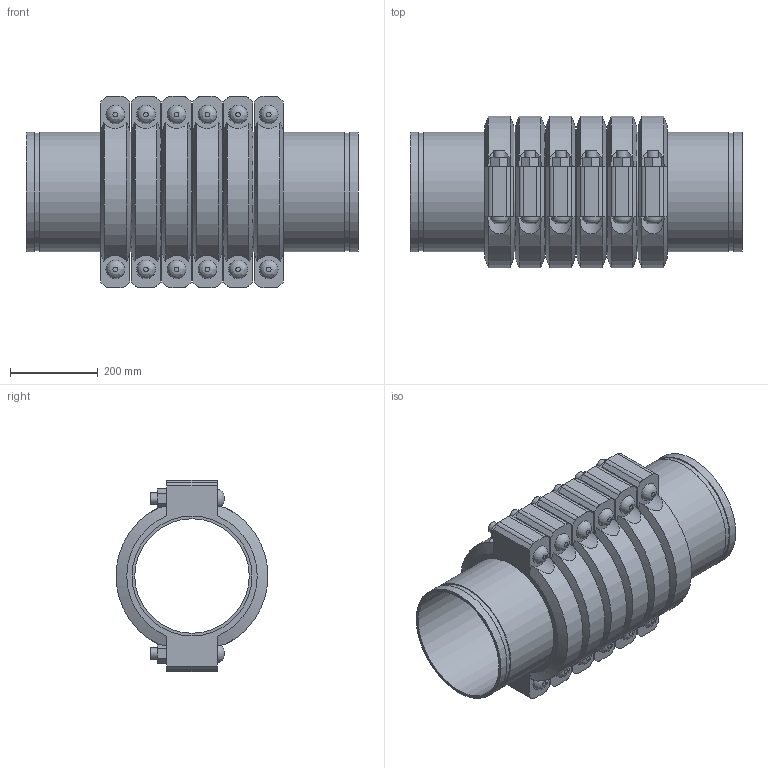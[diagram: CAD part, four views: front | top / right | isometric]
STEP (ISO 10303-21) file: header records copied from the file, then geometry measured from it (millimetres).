
FILE_DESCRIPTION(/* description */ ('VIC SS EXPANSION JOINT 6 COUPLINGS COMPRESSED STYLE 155P (OGS) (POTABLE WATER) ','CAx-IF Rec.Pracs.---Representation and Presentation of Product Manufacturing Information (PMI)---4.0---2014-10-13'),/* implementation_level */ '2;1');
FILE_NAME(/* name */ 'C:\Users\kkamble\AppData\Roaming\Autodesk\ApplicationPlugins\Victaulic.Temp\A518\Victaulic_SS_Expansion Joint_Compressed_6 Couplings_Style 155P (OGS)-Potable Water_6 Coup_Comp_10 (250).stp',/* time_stamp */ '2021-07-16T17:14:56+06:00',/* author */ ('kkamble'),/* organization */ ('Victaulic'),/* preprocessor_version */ 'ST-DEVELOPER v17.2',/* originating_system */ 'Autodesk Inventor 2019',/* authorisation */ '');
FILE_SCHEMA (('AP242_MANAGED_MODEL_BASED_3D_ENGINEERING_MIM_LF { 1 0 10303 442 1 1 4 }'));
Length unit declared in the file: inch
Products named in the file (4): 155-10.0; Nipple-10.0; Nipple-10.0_1; 077-10.0
Assembly tree (13 placements, depth 2):
  155-10.0
    Nipple-10.0  x2
    Nipple-10.0_1  x5
    077-10.0  x6
Bounding box: 755.65 x 344.9 x 435.1 mm (x, y, z)
Volume: 21190417.5 mm3; surface area: 3031696.3 mm2
Topology: 13 solids, 25 shells, 426 faces, 1044 edges, 732 vertices
Faces by surface type: plane 246, cylinder 144, cone 24, bspline 12
Full cylindrical faces by diameter (mm): 25.4 x24, 27.432 x12, 260.35 x7, 268.275 x14, 273.05 x27
Entity records: 2977 total; most frequent: CARTESIAN_POINT 663, DIRECTION 463, ORIENTED_EDGE 398, EDGE_CURVE 199, AXIS2_PLACEMENT_3D 188, VERTEX_POINT 142, EDGE_LOOP 105, CIRCLE 92
